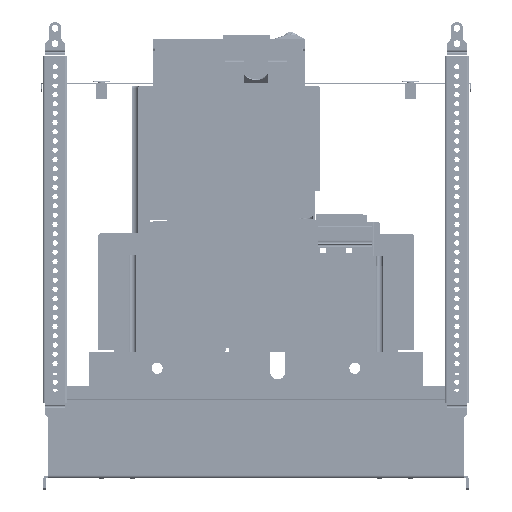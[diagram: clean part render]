
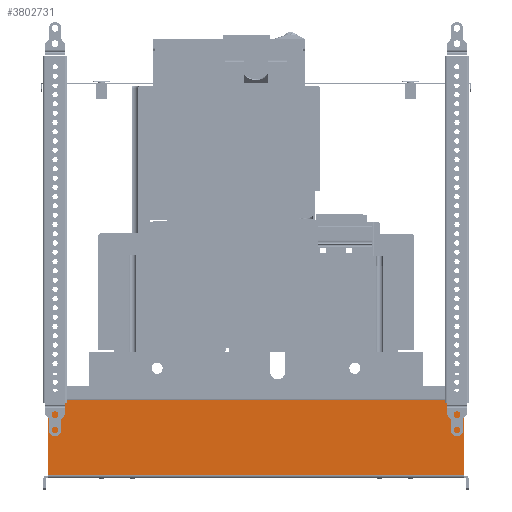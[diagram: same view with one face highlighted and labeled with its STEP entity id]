
A CAD part, left-side view. The second image highlights one B-rep face of the part: STEP entity #3802731.
In plain terms, the highlighted planar face has unit normal (-1, 0, 0).
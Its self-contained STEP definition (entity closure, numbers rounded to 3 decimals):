
#3799731=CARTESIAN_POINT(' ',(-327.061,-165.467,-65.047));
#3799732=VERTEX_POINT(' ',#3799731);
#3799746=CARTESIAN_POINT(' ',(-327.061,-165.467,-65.047));
#3799751=DIRECTION(' ',(0.,1.,0.));
#3799756=VECTOR(' ',#3799751,1.);
#3799761=LINE('',#3799746,#3799756);
#3799766=CARTESIAN_POINT(' ',(-327.061,171.533,-65.047));
#3799767=VERTEX_POINT(' ',#3799766);
#3799771=EDGE_CURVE(' ',#3799732,#3799767,#3799761,.T.);
#3800951=CARTESIAN_POINT(' ',(-327.061,-165.467,-4.147));
#3800952=VERTEX_POINT(' ',#3800951);
#3800966=CARTESIAN_POINT(' ',(-327.061,-165.467,-65.047));
#3800971=DIRECTION(' ',(0.,0.,1.));
#3800976=VECTOR(' ',#3800971,1.);
#3800981=LINE('',#3800966,#3800976);
#3800986=EDGE_CURVE(' ',#3799732,#3800952,#3800981,.T.);
#3802621=DIRECTION(' ',(-1.,0.,0.));
#3802626=CARTESIAN_POINT(' ',(-327.061,-165.467,-4.147));
#3802631=DIRECTION(' ',(0.,1.,0.));
#3802636=AXIS2_PLACEMENT_3D(' ',#3802626,#3802621,#3802631);
#3802641=PLANE('NONE',#3802636);
#3802646=ORIENTED_EDGE(' ',*,*,#3799771,.F.);
#3802651=ORIENTED_EDGE(' ',*,*,#3800986,.T.);
#3802656=CARTESIAN_POINT(' ',(-327.061,-165.467,-4.147));
#3802661=DIRECTION(' ',(0.,1.,0.));
#3802666=VECTOR(' ',#3802661,1.);
#3802671=LINE('',#3802656,#3802666);
#3802676=CARTESIAN_POINT(' ',(-327.061,171.533,-4.147));
#3802677=VERTEX_POINT(' ',#3802676);
#3802681=EDGE_CURVE(' ',#3800952,#3802677,#3802671,.T.);
#3802686=ORIENTED_EDGE(' ',*,*,#3802681,.T.);
#3802691=CARTESIAN_POINT(' ',(-327.061,171.533,-4.147));
#3802696=DIRECTION(' ',(0.,0.,-1.));
#3802701=VECTOR(' ',#3802696,1.);
#3802706=LINE('',#3802691,#3802701);
#3802711=EDGE_CURVE(' ',#3802677,#3799767,#3802706,.T.);
#3802716=ORIENTED_EDGE(' ',*,*,#3802711,.T.);
#3802721=EDGE_LOOP(' ',(#3802646,#3802651,#3802686,#3802716));
#3802726=FACE_OUTER_BOUND(' ',#3802721,.T.);
#3802731=ADVANCED_FACE('NONE',(#3802726),#3802641,.T.);
